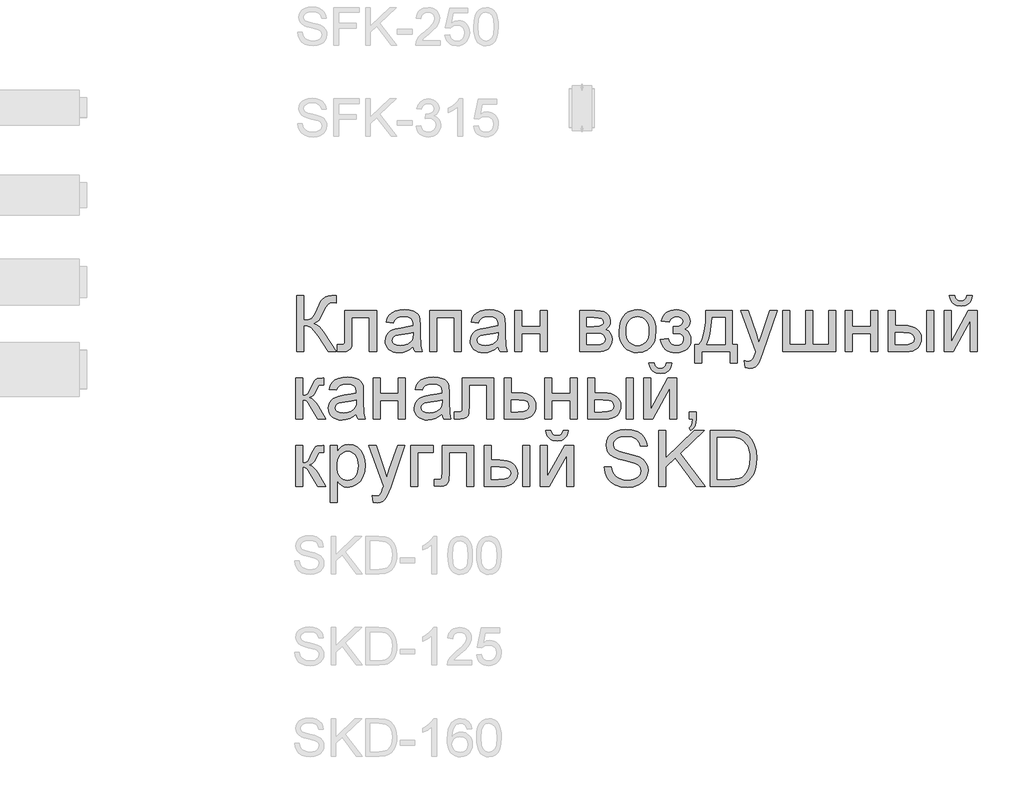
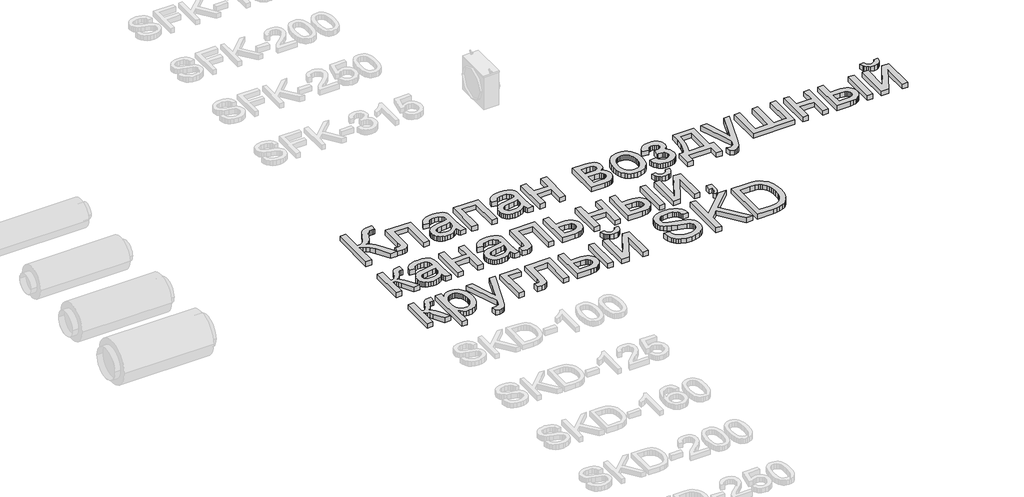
# One storey, part 12 of 31: 1 proxy.
"""IFC4 building model written with IfcOpenShell, lengths in millimetres."""

from ifc_helpers import new_model, si_unit, origin, origin_with_axes, place, context, project, spatial, polyline, outline, extrude, element, save

model = new_model("IFC4")

# Units and contexts
model_context = context("Model", 3, world=origin())
ifc_project = project(units=[si_unit("LENGTHUNIT", "METRE", prefix="MILLI")], contexts=[model_context])

# Site, building, storey
site = spatial("IfcSite", under=ifc_project)
building = spatial("IfcBuilding", under=site)
storey = spatial("IfcBuildingStorey", under=building, Name="Этаж 01", Elevation=0.0)

# Proxy
placement = place(None, origin())
element("IfcBuildingElementProxy", 1, Name="450 мм Arial", ObjectType="450 мм Arial", at=placement, inside=storey, context=model_context, shape_type="SweptSolid", body=[
    extrude(outline(polyline([(10419.0852891, -15002.9463555), (10475.292307, -15002.9463555), (10475.292307, -15199.6709179), (10513.3445678, -15195.9521431), (10538.1409744, -15184.7958185), (10558.1894249, -15158.5448358), (10581.9978174, -15109.5420866), (10613.0104787, -15046.6934192), (10627.9679126, -15029.6639003), (10648.1398648, -15015.5709786), (10672.0854815, -15006.1025112), (10698.3639091, -15002.9463555), (10735.2497645, -15003.6050315), (10735.2497645, -15059.8120493), (10722.8447001, -15059.4827113), (10710.4396356, -15059.1533733), (10684.6963823, -15062.5290878), (10666.5279029, -15072.6562311), (10650.8843481, -15093.9259766), (10633.154986, -15130.5099389), (10611.4049559, -15176.0683616), (10593.3599783, -15200.9882699), (10575.5620041, -15214.1069001), (10554.5529845, -15224.2614883), (10576.3235982, -15233.5241194), (10597.9432654, -15249.6754036), (10619.4119859, -15272.7153408), (10640.7297599, -15302.6439311), (10735.2497645, -15452.6024983), (10670.0408415, -15452.6024983), (10590.121488, -15325.9171494), (10559.2597733, -15285.2850743), (10533.8595805, -15259.7751021), (10507.8830461, -15246.3134115), (10475.292307, -15241.8261813), (10475.292307, -15452.6024983), (10419.0852891, -15452.6024983), (10419.0852891, -15002.9463555)])), origin_with_axes(), (0.0, 0.0, 1.0), 50.0),
    extrude(outline(polyline([(10805.5085369, -15122.3862684), (11058.4401172, -15122.3862684), (11058.4401172, -15452.2731603), (11002.2330993, -15452.2731603), (11002.2330993, -15178.5932862), (10861.7155547, -15178.5932862), (10861.7155547, -15336.1266273), (10857.9281678, -15408.8005449), (10850.8336785, -15425.2537223), (10837.1249844, -15439.4838681), (10816.321801, -15449.3228407), (10787.9438438, -15452.6024983), (10742.2756418, -15449.7482357), (10742.2756418, -15396.3954804), (10767.4151087, -15396.3954804), (10792.829024, -15392.9374315), (10799.1825029, -15388.4639237), (10802.9836122, -15381.9594983), (10805.5085369, -15332.9430267), (10805.5085369, -15122.3862684)])), origin_with_axes(), (0.0, 0.0, 1.0), 50.0),
    extrude(outline(polyline([(11353.5269609, -15410.4472349), (11326.6721919, -15433.4734497), (11299.0215227, -15448.540663), (11269.9437222, -15456.8564474), (11238.8075593, -15459.6283755), (11213.7813022, -15457.9611019), (11191.8357277, -15452.9592811), (11172.9708356, -15444.6229131), (11157.1866261, -15432.9519979), (11144.7232413, -15418.687546), (11135.8208237, -15402.5705678), (11130.4793731, -15384.6010635), (11128.6988895, -15364.7790329), (11131.3884831, -15341.4783697), (11139.457264, -15320.3184035), (11151.9034958, -15302.2048138), (11167.7254419, -15288.04328), (11186.3193163, -15277.3397952), (11207.0813324, -15269.6003523), (11255.7135763, -15261.1473437), (11313.1830565, -15252.2552178), (11353.1976229, -15241.8261813), (11353.5269609, -15229.3113375), (11349.6572395, -15204.2267602), (11338.0480751, -15187.8147501), (11312.0852632, -15175.6292443), (11275.9129734, -15171.567409), (11242.4302772, -15174.2707251), (11219.0472795, -15182.3806732), (11203.1018316, -15197.3792744), (11191.9317846, -15220.7485496), (11135.7247667, -15213.7226724), (11145.4814049, -15182.9844595), (11160.0408887, -15158.8330065), (11180.7617376, -15140.362634), (11209.0024707, -15126.6676623), (11243.5417929, -15118.187209), (11283.1584093, -15115.3603912), (11321.1557805, -15117.857871), (11351.2764846, -15125.3503104), (11373.9870839, -15136.6164143), (11389.7541404, -15150.4348877), (11400.2106217, -15167.5192962), (11406.9894955, -15188.5832054), (11409.7339788, -15237.7643461), (11409.7339788, -15307.6937804), (11412.5882414, -15405.342496), (11423.7857332, -15452.6024983), (11367.5787154, -15452.6024983), (11358.5768102, -15433.0617772), (11353.5269609, -15410.4472349)]), holes=[polyline([(11353.5269609, -15298.0331992), (11315.7628708, -15307.3918872), (11262.8492329, -15315.2685543), (11214.4914373, -15324.3802388), (11201.9079814, -15330.6102159), (11192.5904606, -15339.2004486), (11186.8270457, -15349.4922609), (11184.9059074, -15360.8269769), (11189.0912444, -15377.5408802), (11201.6472555, -15391.2358518), (11222.2994922, -15400.3749812), (11250.7735064, -15403.4213577), (11280.9628226, -15400.0593656), (11307.6392003, -15389.9733895), (11329.2657286, -15375.1120125), (11344.3054971, -15357.4238177), (11350.9745915, -15339.2004486), (11353.1976229, -15313.9512023), (11353.5269609, -15298.0331992)])]), origin_with_axes(), (0.0, 0.0, 1.0), 50.0),
    extrude(outline(polyline([(11487.0186283, -15122.3862684), (11739.9502087, -15122.3862684), (11739.9502087, -15452.6024983), (11683.7431908, -15452.6024983), (11683.7431908, -15178.5932862), (11543.2256462, -15178.5932862), (11543.2256462, -15452.6024983), (11487.0186283, -15452.6024983), (11487.0186283, -15122.3862684)])), origin_with_axes(), (0.0, 0.0, 1.0), 50.0),
    extrude(outline(polyline([(12035.0370524, -15410.4472349), (12008.1822834, -15433.4734497), (11980.5316142, -15448.540663), (11951.4538137, -15456.8564474), (11920.3176507, -15459.6283755), (11895.2913937, -15457.9611019), (11873.3458191, -15452.9592811), (11854.4809271, -15444.6229131), (11838.6967176, -15432.9519979), (11826.2333328, -15418.687546), (11817.3309151, -15402.5705678), (11811.9894645, -15384.6010635), (11810.208981, -15364.7790329), (11812.8985746, -15341.4783697), (11820.9673555, -15320.3184035), (11833.4135872, -15302.2048138), (11849.2355334, -15288.04328), (11867.8294077, -15277.3397952), (11888.5914238, -15269.6003523), (11937.2236678, -15261.1473437), (11994.693148, -15252.2552178), (12034.7077144, -15241.8261813), (12035.0370524, -15229.3113375), (12031.1673309, -15204.2267602), (12019.5581666, -15187.8147501), (11993.5953546, -15175.6292443), (11957.4230648, -15171.567409), (11923.9403687, -15174.2707251), (11900.557371, -15182.3806732), (11884.6119231, -15197.3792744), (11873.4418761, -15220.7485496), (11817.2348582, -15213.7226724), (11826.9914963, -15182.9844595), (11841.5509802, -15158.8330065), (11862.2718291, -15140.362634), (11890.5125621, -15126.6676623), (11925.0518844, -15118.187209), (11964.6685007, -15115.3603912), (12002.6658719, -15117.857871), (12032.7865761, -15125.3503104), (12055.4971753, -15136.6164143), (12071.2642319, -15150.4348877), (12081.7207132, -15167.5192962), (12088.4995869, -15188.5832054), (12091.2440702, -15237.7643461), (12091.2440702, -15307.6937804), (12094.0983329, -15405.342496), (12105.2958247, -15452.6024983), (12049.0888068, -15452.6024983), (12040.0869016, -15433.0617772), (12035.0370524, -15410.4472349)]), holes=[polyline([(12035.0370524, -15298.0331992), (11997.2729623, -15307.3918872), (11944.3593244, -15315.2685543), (11896.0015287, -15324.3802388), (11883.4180728, -15330.6102159), (11874.100552, -15339.2004486), (11868.3371371, -15349.4922609), (11866.4159988, -15360.8269769), (11870.6013358, -15377.5408802), (11883.1573469, -15391.2358518), (11903.8095837, -15400.3749812), (11932.2835979, -15403.4213577), (11962.4729141, -15400.0593656), (11989.1492917, -15389.9733895), (12010.7758201, -15375.1120125), (12025.8155885, -15357.4238177), (12032.4846829, -15339.2004486), (12034.7077144, -15313.9512023), (12035.0370524, -15298.0331992)])]), origin_with_axes(), (0.0, 0.0, 1.0), 50.0),
    extrude(outline(polyline([(12168.5287198, -15122.3862684), (12224.7357376, -15122.3862684), (12224.7357376, -15248.8520586), (12372.2791595, -15248.8520586), (12372.2791595, -15122.3862684), (12428.4861773, -15122.3862684), (12428.4861773, -15452.6024983), (12372.2791595, -15452.6024983), (12372.2791595, -15305.0590764), (12224.7357376, -15305.0590764), (12224.7357376, -15452.6024983), (12168.5287198, -15452.6024983), (12168.5287198, -15122.3862684)])), origin_with_axes(), (0.0, 0.0, 1.0), 50.0),
    extrude(outline(polyline([(12688.4436349, -15122.3862684), (12812.2747211, -15122.3862684), (12852.0834513, -15124.2662395), (12880.1732378, -15129.9061526), (12900.839197, -15140.5547478), (12918.3764452, -15157.4607649), (12930.3561148, -15179.4852433), (12934.349338, -15205.4892225), (12931.9341927, -15226.4433525), (12924.6887568, -15244.515775), (12912.5855855, -15259.7888245), (12895.5972339, -15272.3448356), (12916.4004173, -15284.022612), (12933.361324, -15302.8086001), (12944.6411504, -15327.220779), (12948.4010925, -15355.7771277), (12945.2792427, -15378.7827589), (12938.8777354, -15398.6185119), (12929.1965706, -15415.2843867), (12916.2357483, -15428.7803833), (12899.9746848, -15439.2025586), (12880.3927965, -15446.6469695), (12857.4900834, -15451.1136161), (12831.2665455, -15452.6024983), (12688.4436349, -15452.6024983), (12688.4436349, -15122.3862684)]), holes=[polyline([(12744.6506528, -15248.8520586), (12800.1989946, -15248.8520586), (12846.0318656, -15245.9977959), (12868.31707, -15234.5807454), (12875.6860076, -15225.1397229), (12878.1423202, -15213.9422311), (12873.8334814, -15197.1734381), (12860.9069651, -15186.3876188), (12837.5514123, -15180.5418694), (12801.9554639, -15178.5932862), (12744.6506528, -15178.5932862), (12744.6506528, -15248.8520586)]), polyline([(12744.6506528, -15396.3954804), (12813.5920731, -15396.3954804), (12851.1640494, -15393.8568334), (12874.7391609, -15386.2408922), (12887.3912289, -15372.394974), (12892.1940746, -15351.1663957), (12889.7926517, -15337.1009189), (12882.5883831, -15324.1057905), (12871.5281154, -15313.9374799), (12857.5586955, -15308.3524564), (12808.1031065, -15305.0590764), (12744.6506528, -15305.0590764), (12744.6506528, -15396.3954804)])]), origin_with_axes(), (0.0, 0.0, 1.0), 50.0),
    extrude(outline(polyline([(13004.6081103, -15287.4943833), (13007.6476256, -15244.7284724), (13016.7661713, -15207.876923), (13031.9637476, -15176.9397351), (13053.2403543, -15151.9169086), (13074.6610464, -15135.9234322), (13098.30477, -15124.4995205), (13124.171525, -15117.6451735), (13152.2613115, -15115.3603912), (13183.2705421, -15118.1426111), (13211.3088696, -15126.4892709), (13236.3762939, -15140.4003706), (13258.472815, -15159.8759102), (13276.5075008, -15184.2572136), (13289.3894193, -15212.885605), (13297.1185704, -15245.7610843), (13299.6949541, -15282.8836514), (13295.1391118, -15339.6670107), (13289.444309, -15362.9745351), (13281.471585, -15382.8926226), (13259.0903237, -15415.2638031), (13228.3932781, -15439.4838681), (13191.9328175, -15454.5922487), (13152.2613115, -15459.6283755), (13120.7992412, -15456.8564474), (13092.5001878, -15448.540663), (13067.3641514, -15434.6810224), (13045.3911321, -15415.2775255), (13027.5485601, -15390.6595103), (13014.8038658, -15361.1563149), (13007.1570492, -15326.7679393), (13004.6081103, -15287.4943833)]), holes=[polyline([(13060.8151282, -15287.384604), (13062.4412345, -15314.6476149), (13067.3195536, -15338.2536019), (13075.4500853, -15358.2025648), (13086.8328298, -15374.4945037), (13100.678748, -15387.1500023), (13116.198801, -15396.1896442), (13133.3929889, -15401.6134293), (13152.2613115, -15403.4213577), (13171.0335773, -15401.6031375), (13188.159153, -15396.1484769), (13203.6380388, -15387.057376), (13217.4702346, -15374.3298347), (13228.852979, -15357.8766574), (13236.9835108, -15337.6086483), (13241.8618299, -15313.5258074), (13243.4879362, -15285.6281347), (13241.851538, -15259.229636), (13236.9423435, -15236.2411578), (13228.7603527, -15216.6627001), (13217.3055656, -15200.4942629), (13203.4219107, -15187.8387643), (13187.9533168, -15178.7991225), (13170.8997837, -15173.3753374), (13152.2613115, -15171.567409), (13133.3929889, -15173.3684762), (13116.198801, -15178.7716777), (13100.678748, -15187.7770135), (13086.8328298, -15200.3844836), (13075.4500853, -15216.6283941), (13067.3195536, -15236.543051), (13062.4412345, -15260.1284543), (13060.8151282, -15287.384604)])]), origin_with_axes(), (0.0, 0.0, 1.0), 50.0),
    extrude(outline(polyline([(13440.2124987, -15305.0590764), (13440.2124987, -15248.8520586), (13484.5633487, -15246.6564719), (13496.0901785, -15242.7455832), (13506.9583324, -15234.9649731), (13514.8624443, -15224.0007623), (13517.4971482, -15210.5390718), (13513.9704872, -15194.5524566), (13503.3905041, -15182.1611145), (13487.2392199, -15174.2158354), (13466.9986556, -15171.567409), (13446.5385327, -15174.202113), (13429.3992345, -15182.1062249), (13415.5807611, -15195.2797447), (13405.0831125, -15213.7226724), (13341.8502174, -15206.6967952), (13358.6190104, -15166.7371184), (13370.2762032, -15151.038674), (13384.1152602, -15138.1944922), (13400.1361814, -15128.204573), (13418.3389668, -15121.0689164), (13461.2901304, -15115.3603912), (13486.2100387, -15117.0997075), (13508.2756844, -15122.3176563), (13527.4870674, -15131.0142378), (13543.8441878, -15143.1894518), (13556.9079283, -15157.7798111), (13566.2391715, -15173.7218284), (13571.8379174, -15191.0155038), (13573.7041661, -15209.6608371), (13571.0488785, -15228.1037649), (13563.0830157, -15244.5706646), (13549.8065778, -15259.0615364), (13531.2195647, -15271.5763802), (13552.9147051, -15287.1924902), (13568.3798685, -15306.5959871), (13577.6424996, -15329.8417606), (13580.7300433, -15356.9847003), (13578.7711684, -15378.7450222), (13572.8945435, -15398.357786), (13563.1001688, -15415.8229915), (13549.3880441, -15431.1406389), (13532.1561196, -15443.6040237), (13511.8023454, -15452.5064414), (13488.3267214, -15457.847892), (13461.7292477, -15459.6283755), (13435.8041724, -15457.9816855), (13412.7539433, -15453.0416156), (13392.5785605, -15444.8081657), (13375.278024, -15433.2813359), (13360.8523336, -15418.4611261), (13349.3014896, -15400.3475364), (13340.6254918, -15378.9405667), (13334.8243402, -15354.240217), (13398.0572353, -15347.2143398), (13407.5257027, -15370.9815651), (13423.4162609, -15388.7109272), (13443.8901063, -15399.74375), (13467.108435, -15403.4213577), (13489.7229773, -15399.8946966), (13508.165905, -15389.3147135), (13520.4337454, -15373.2457638), (13524.5230255, -15353.2522031), (13521.9843784, -15337.4165344), (13514.3684373, -15323.7215628), (13503.8845111, -15313.4571953), (13492.7419089, -15307.913339), (13451.1904319, -15304.7297384), (13440.2124987, -15305.0590764)])), origin_with_axes(), (0.0, 0.0, 1.0), 50.0),
    extrude(outline(polyline([(13700.1699563, -15122.3862684), (13910.9462732, -15122.3862684), (13910.9462732, -15396.3954804), (13953.1015366, -15396.3954804), (13953.1015366, -15543.9389023), (13896.8945187, -15543.9389023), (13896.8945187, -15452.6024983), (13665.0405701, -15452.6024983), (13665.0405701, -15543.9389023), (13608.8335522, -15543.9389023), (13608.8335522, -15396.3954804), (13643.9629384, -15396.3954804), (13657.6887855, -15375.1840552), (13669.5003554, -15350.2469938), (13687.3806641, -15289.195963), (13697.6038644, -15213.2423878), (13700.1699563, -15122.3862684)]), holes=[polyline([(13749.3510969, -15178.5932862), (13744.7403649, -15247.4112048), (13736.1775771, -15306.6508767), (13723.6627332, -15356.3123019), (13707.1958335, -15396.3954804), (13854.7392553, -15396.3954804), (13854.7392553, -15178.5932862), (13749.3510969, -15178.5932862)])]), origin_with_axes(), (0.0, 0.0, 1.0), 50.0),
    extrude(outline(polyline([(14016.3344317, -15579.0682884), (14009.3085544, -15524.9470779), (14037.8511807, -15529.8871478), (14052.8635043, -15528.3365148), (14064.5275583, -15523.6846156), (14080.8846787, -15506.3943708), (14096.2537852, -15465.0075628), (14100.6449584, -15451.3949256), (13981.2050455, -15122.3862684), (14040.4858847, -15122.3862684), (14103.8285591, -15305.7177524), (14125.8942047, -15379.050346), (14147.9598504, -15314.2805403), (14213.0589942, -15122.3862684), (14271.900716, -15122.3862684), (14156.9617556, -15460.5066102), (14127.1017774, -15533.8392038), (14111.8150055, -15557.2496463), (14094.4973159, -15573.4695425), (14074.3802533, -15582.9380099), (14050.6953625, -15586.0941657), (14016.3344317, -15579.0682884)])), origin_with_axes(), (0.0, 0.0, 1.0), 50.0),
    extrude(outline(polyline([(14318.4471526, -15122.3862684), (14374.6541705, -15122.3862684), (14374.6541705, -15396.3954804), (14501.1199606, -15396.3954804), (14501.1199606, -15122.3862684), (14557.3269785, -15122.3862684), (14557.3269785, -15396.3954804), (14683.7927687, -15396.3954804), (14683.7927687, -15122.3862684), (14739.9997865, -15122.3862684), (14739.9997865, -15452.6024983), (14318.4471526, -15452.6024983), (14318.4471526, -15122.3862684)])), origin_with_axes(), (0.0, 0.0, 1.0), 50.0),
    extrude(outline(polyline([(14817.2844361, -15122.3862684), (14873.4914539, -15122.3862684), (14873.4914539, -15248.8520586), (15021.0348758, -15248.8520586), (15021.0348758, -15122.3862684), (15077.2418936, -15122.3862684), (15077.2418936, -15452.6024983), (15021.0348758, -15452.6024983), (15021.0348758, -15305.0590764), (14873.4914539, -15305.0590764), (14873.4914539, -15452.6024983), (14817.2844361, -15452.6024983), (14817.2844361, -15122.3862684)])), origin_with_axes(), (0.0, 0.0, 1.0), 50.0),
    extrude(outline(polyline([(15470.6910186, -15122.3862684), (15526.8980364, -15122.3862684), (15526.8980364, -15452.6024983), (15470.6910186, -15452.6024983), (15470.6910186, -15122.3862684)])), origin_with_axes(), (0.0, 0.0, 1.0), 50.0),
    extrude(outline(polyline([(15161.5524204, -15122.3862684), (15217.7594383, -15122.3862684), (15217.7594383, -15241.8261813), (15287.2497553, -15241.8261813), (15319.2264162, -15243.5860812), (15347.3127721, -15248.865781), (15371.508823, -15257.6652805), (15391.8145687, -15269.9845799), (15407.8800878, -15285.3982842), (15419.3554586, -15303.4809985), (15426.2406811, -15324.2327228), (15428.5357552, -15347.6534571), (15426.6111863, -15368.5492668), (15420.8374796, -15387.8738598), (15411.214635, -15405.6272361), (15397.7426527, -15421.8093957), (15380.044166, -15435.2813781), (15357.7418086, -15444.9042226), (15330.8355806, -15450.6779294), (15299.3254817, -15452.6024983), (15161.5524204, -15452.6024983), (15161.5524204, -15122.3862684)]), holes=[polyline([(15217.7594383, -15396.3954804), (15275.5033668, -15396.3954804), (15320.2658893, -15393.4451609), (15350.043533, -15384.5942023), (15366.7574363, -15369.4858217), (15372.3287374, -15347.7632365), (15368.19829, -15329.4026432), (15355.8069479, -15313.182747), (15345.052004, -15306.5548198), (15329.3089617, -15301.8205861), (15282.858582, -15298.0331992), (15217.7594383, -15298.0331992), (15217.7594383, -15396.3954804)])]), origin_with_axes(), (0.0, 0.0, 1.0), 50.0),
    extrude(outline(polyline([(15793.8813712, -15002.9463555), (15836.0366346, -15002.9463555), (15826.9661173, -15038.9402539), (15819.0036852, -15053.3865278), (15808.7564707, -15065.4656849), (15796.4303101, -15074.9993337), (15782.2310397, -15081.8090829), (15748.2131692, -15087.2568822), (15711.2998689, -15081.8502502), (15695.9513461, -15075.09196), (15682.6749082, -15065.6303539), (15671.662669, -15053.6026559), (15663.1067423, -15039.1460901), (15653.3638266, -15002.9463555), (15695.51909, -15002.9463555), (15701.4471739, -15021.4578953), (15711.3273138, -15034.6176927), (15725.2143992, -15042.4806373), (15743.16332, -15045.1016189), (15763.4176067, -15042.5629718), (15778.0731475, -15034.9470307), (15787.9532873, -15021.8695678), (15793.8813712, -15002.9463555)])), origin_with_axes(), (0.0, 0.0, 1.0), 50.0),
    extrude(outline(polyline([(15611.2085632, -15122.3862684), (15667.4155811, -15122.3862684), (15667.4155811, -15374.2200554), (15805.5179804, -15122.3862684), (15878.191898, -15122.3862684), (15878.191898, -15452.6024983), (15821.9848802, -15452.6024983), (15821.9848802, -15202.3056219), (15684.7607155, -15452.6024983), (15611.2085632, -15452.6024983), (15611.2085632, -15122.3862684)])), origin_with_axes(), (0.0, 0.0, 1.0), 50.0),
    extrude(outline(polyline([(10412.0594119, -15662.8183516), (10468.2664298, -15662.8183516), (10468.2664298, -15803.3358962), (10491.1279756, -15800.8109716), (10505.9207405, -15793.2361977), (10519.0119258, -15773.475918), (10536.7687328, -15734.3944759), (10551.0812131, -15702.4349679), (10562.4022067, -15683.6215349), (10572.9684674, -15673.3708898), (10585.0167491, -15667.0997455), (10626.1291088, -15662.8183516), (10636.8874833, -15662.8183516), (10636.8874833, -15719.3547074), (10621.7379355, -15719.0253694), (10604.1732424, -15720.5073904), (10594.2931026, -15724.9534533), (10574.9719402, -15761.9490881), (10563.10205, -15786.6082705), (10552.3025082, -15801.9636546), (10539.2250453, -15812.2142997), (10520.5213917, -15821.5592653), (10538.3330882, -15829.4702384), (10555.9801158, -15843.4327971), (10573.4624744, -15863.4469415), (10590.780164, -15889.5126716), (10650.9392378, -15993.0345815), (10587.0476667, -15993.0345815), (10528.0961656, -15891.7082583), (10512.1781624, -15864.7437099), (10498.455746, -15848.8394292), (10484.5961053, -15841.0588191), (10468.2664298, -15838.4652824), (10468.2664298, -15993.0345815), (10412.0594119, -15993.0345815), (10412.0594119, -15662.8183516)])), origin_with_axes(), (0.0, 0.0, 1.0), 50.0),
    extrude(outline(polyline([(10896.8449409, -15950.8793181), (10869.9901718, -15973.9055329), (10842.3395027, -15988.9727462), (10813.2617022, -15997.2885306), (10782.1255392, -16000.0604587), (10757.0992822, -15998.3931851), (10735.1537076, -15993.3913643), (10716.2888156, -15985.0549963), (10700.5046061, -15973.3840811), (10688.0412213, -15959.1196292), (10679.1388036, -15943.002651), (10673.797353, -15925.0331467), (10672.0168695, -15905.2111161), (10674.7064631, -15881.9104529), (10682.775244, -15860.7504867), (10695.2214757, -15842.636897), (10711.0434219, -15828.4753632), (10729.6372962, -15817.7718783), (10750.3993123, -15810.0324354), (10799.0315563, -15801.5794269), (10856.5010365, -15792.687301), (10896.5156029, -15782.2582645), (10896.8449409, -15769.7434207), (10892.9752194, -15744.6588434), (10881.3660551, -15728.2468333), (10855.4032431, -15716.0613275), (10819.2309533, -15711.9994922), (10785.7482572, -15714.7028082), (10762.3652595, -15722.8127564), (10746.4198116, -15737.8113576), (10735.2497645, -15761.1806328), (10679.0427467, -15754.1547556), (10688.7993848, -15723.4165427), (10703.3588687, -15699.2650897), (10724.0797175, -15680.7947171), (10752.3204506, -15667.0997455), (10786.8597729, -15658.6192921), (10826.4763892, -15655.7924743), (10864.4737604, -15658.2899541), (10894.5944646, -15665.7823935), (10917.3050638, -15677.0484975), (10933.0721203, -15690.8669708), (10943.5286017, -15707.9513793), (10950.3074754, -15729.0152886), (10953.0519587, -15778.1964292), (10953.0519587, -15848.1258636), (10955.9062214, -15945.7745791), (10967.1037132, -15993.0345815), (10910.8966953, -15993.0345815), (10901.8947901, -15973.4938604), (10896.8449409, -15950.8793181)]), holes=[polyline([(10896.8449409, -15838.4652824), (10859.0808508, -15847.8239704), (10806.1672129, -15855.7006374), (10757.8094172, -15864.812322), (10745.2259613, -15871.0422991), (10735.9084405, -15879.6325318), (10730.1450256, -15889.9243441), (10728.2238873, -15901.2590601), (10732.4092243, -15917.9729634), (10744.9652354, -15931.667935), (10765.6174722, -15940.8070644), (10794.0914864, -15943.8534408), (10824.2808026, -15940.4914488), (10850.9571802, -15930.4054727), (10872.5837086, -15915.5440957), (10887.623477, -15897.8559008), (10894.2925714, -15879.6325318), (10896.5156029, -15854.3832855), (10896.8449409, -15838.4652824)])]), origin_with_axes(), (0.0, 0.0, 1.0), 50.0),
    extrude(outline(polyline([(11030.3366083, -15662.8183516), (11086.5436261, -15662.8183516), (11086.5436261, -15789.2841417), (11234.087048, -15789.2841417), (11234.087048, -15662.8183516), (11290.2940658, -15662.8183516), (11290.2940658, -15993.0345815), (11234.087048, -15993.0345815), (11234.087048, -15845.4911596), (11086.5436261, -15845.4911596), (11086.5436261, -15993.0345815), (11030.3366083, -15993.0345815), (11030.3366083, -15662.8183516)])), origin_with_axes(), (0.0, 0.0, 1.0), 50.0),
    extrude(outline(polyline([(11585.3809096, -15950.8793181), (11558.5261405, -15973.9055329), (11530.8754714, -15988.9727462), (11501.7976709, -15997.2885306), (11470.6615079, -16000.0604587), (11445.6352509, -15998.3931851), (11423.6896763, -15993.3913643), (11404.8247843, -15985.0549963), (11389.0405747, -15973.3840811), (11376.57719, -15959.1196292), (11367.6747723, -15943.002651), (11362.3333217, -15925.0331467), (11360.5528382, -15905.2111161), (11363.2424318, -15881.9104529), (11371.3112127, -15860.7504867), (11383.7574444, -15842.636897), (11399.5793906, -15828.4753632), (11418.1732649, -15817.7718783), (11438.935281, -15810.0324354), (11487.567525, -15801.5794269), (11545.0370051, -15792.687301), (11585.0515716, -15782.2582645), (11585.3809096, -15769.7434207), (11581.5111881, -15744.6588434), (11569.9020238, -15728.2468333), (11543.9392118, -15716.0613275), (11507.766922, -15711.9994922), (11474.2842258, -15714.7028082), (11450.9012282, -15722.8127564), (11434.9557802, -15737.8113576), (11423.7857332, -15761.1806328), (11367.5787154, -15754.1547556), (11377.3353535, -15723.4165427), (11391.8948374, -15699.2650897), (11412.6156862, -15680.7947171), (11440.8564193, -15667.0997455), (11475.3957416, -15658.6192921), (11515.0123579, -15655.7924743), (11553.0097291, -15658.2899541), (11583.1304333, -15665.7823935), (11605.8410325, -15677.0484975), (11621.608089, -15690.8669708), (11632.0645704, -15707.9513793), (11638.8434441, -15729.0152886), (11641.5879274, -15778.1964292), (11641.5879274, -15848.1258636), (11644.44219, -15945.7745791), (11655.6396819, -15993.0345815), (11599.432664, -15993.0345815), (11590.4307588, -15973.4938604), (11585.3809096, -15950.8793181)]), holes=[polyline([(11585.3809096, -15838.4652824), (11547.6168194, -15847.8239704), (11494.7031815, -15855.7006374), (11446.3453859, -15864.812322), (11433.76193, -15871.0422991), (11424.4444092, -15879.6325318), (11418.6809943, -15889.9243441), (11416.759856, -15901.2590601), (11420.945193, -15917.9729634), (11433.5012041, -15931.667935), (11454.1534409, -15940.8070644), (11482.6274551, -15943.8534408), (11512.8167713, -15940.4914488), (11539.4931489, -15930.4054727), (11561.1196772, -15915.5440957), (11576.1594457, -15897.8559008), (11582.8285401, -15879.6325318), (11585.0515716, -15854.3832855), (11585.3809096, -15838.4652824)])]), origin_with_axes(), (0.0, 0.0, 1.0), 50.0),
    extrude(outline(polyline([(11746.9760859, -15662.8183516), (11999.9076662, -15662.8183516), (11999.9076662, -15992.7052435), (11943.7006484, -15992.7052435), (11943.7006484, -15719.0253694), (11803.1831037, -15719.0253694), (11803.1831037, -15876.5587105), (11799.3957168, -15949.2326281), (11792.3012275, -15965.6858054), (11778.5925334, -15979.9159513), (11757.7893501, -15989.7549239), (11729.4113928, -15993.0345815), (11683.7431908, -15990.1803188), (11683.7431908, -15936.8275636), (11708.8826578, -15936.8275636), (11734.2965731, -15933.3695147), (11740.6500519, -15928.8960069), (11744.4511613, -15922.3915815), (11746.9760859, -15873.3751099), (11746.9760859, -15662.8183516)])), origin_with_axes(), (0.0, 0.0, 1.0), 50.0),
    extrude(outline(polyline([(12084.218193, -15662.8183516), (12140.4252109, -15662.8183516), (12140.4252109, -15782.2582645), (12205.1950166, -15782.2582645), (12235.0961621, -15784.0181644), (12261.3471448, -15789.2978642), (12283.9479647, -15798.0973637), (12302.8986218, -15810.4166631), (12317.8835006, -15825.8303674), (12328.5869855, -15843.9130817), (12335.0090764, -15864.664806), (12337.1497733, -15888.0855403), (12335.3281225, -15908.98135), (12329.8631702, -15928.305943), (12320.7549163, -15946.0593193), (12308.0033608, -15962.2414789), (12291.2448596, -15975.7134613), (12270.1157689, -15985.3363058), (12244.6160885, -15991.1100125), (12214.7458184, -15993.0345815), (12084.218193, -15993.0345815), (12084.218193, -15662.8183516)]), holes=[polyline([(12140.4252109, -15936.8275636), (12192.8997314, -15936.8275636), (12233.6141411, -15933.8772441), (12260.6884688, -15925.0262854), (12275.8791838, -15909.9179049), (12280.9427555, -15888.1953196), (12277.1965358, -15869.8347264), (12265.9578767, -15853.6148301), (12256.1909468, -15846.986903), (12241.8750358, -15842.2526693), (12199.5962707, -15838.4652824), (12140.4252109, -15838.4652824), (12140.4252109, -15936.8275636)])]), origin_with_axes(), (0.0, 0.0, 1.0), 50.0),
    extrude(outline(polyline([(12407.4085457, -15662.8183516), (12463.6155635, -15662.8183516), (12463.6155635, -15789.2841417), (12611.1589854, -15789.2841417), (12611.1589854, -15662.8183516), (12667.3660032, -15662.8183516), (12667.3660032, -15993.0345815), (12611.1589854, -15993.0345815), (12611.1589854, -15845.4911596), (12463.6155635, -15845.4911596), (12463.6155635, -15993.0345815), (12407.4085457, -15993.0345815), (12407.4085457, -15662.8183516)])), origin_with_axes(), (0.0, 0.0, 1.0), 50.0),
    extrude(outline(polyline([(13060.8151282, -15662.8183516), (13117.022146, -15662.8183516), (13117.022146, -15993.0345815), (13060.8151282, -15993.0345815), (13060.8151282, -15662.8183516)])), origin_with_axes(), (0.0, 0.0, 1.0), 50.0),
    extrude(outline(polyline([(12751.67653, -15662.8183516), (12807.8835478, -15662.8183516), (12807.8835478, -15782.2582645), (12877.3738648, -15782.2582645), (12909.3505258, -15784.0181644), (12937.4368817, -15789.2978642), (12961.6329326, -15798.0973637), (12981.9386783, -15810.4166631), (12998.0041974, -15825.8303674), (13009.4795682, -15843.9130817), (13016.3647906, -15864.664806), (13018.6598648, -15888.0855403), (13016.7352959, -15908.98135), (13010.9615892, -15928.305943), (13001.3387446, -15946.0593193), (12987.8667622, -15962.2414789), (12970.1682756, -15975.7134613), (12947.8659182, -15985.3363058), (12920.9596901, -15991.1100125), (12889.4495913, -15993.0345815), (12751.67653, -15993.0345815), (12751.67653, -15662.8183516)]), holes=[polyline([(12807.8835478, -15936.8275636), (12865.6274763, -15936.8275636), (12910.3899989, -15933.8772441), (12940.1676426, -15925.0262854), (12956.8815459, -15909.9179049), (12962.4528469, -15888.1953196), (12958.3223996, -15869.8347264), (12945.9310575, -15853.6148301), (12935.1761136, -15846.986903), (12919.4330713, -15842.2526693), (12872.9826916, -15838.4652824), (12807.8835478, -15838.4652824), (12807.8835478, -15936.8275636)])]), origin_with_axes(), (0.0, 0.0, 1.0), 50.0),
    extrude(outline(polyline([(13201.3326728, -15662.8183516), (13257.5396907, -15662.8183516), (13257.5396907, -15914.6521386), (13395.64209, -15662.8183516), (13468.3160076, -15662.8183516), (13468.3160076, -15993.0345815), (13412.1089898, -15993.0345815), (13412.1089898, -15742.7377051), (13274.8848251, -15993.0345815), (13201.3326728, -15993.0345815), (13201.3326728, -15662.8183516)])), origin_with_axes(), (0.0, 0.0, 1.0), 50.0),
    extrude(outline(polyline([(13384.0054808, -15543.3784386), (13426.1607442, -15543.3784386), (13417.0902269, -15579.372337), (13409.1277948, -15593.818611), (13398.8805803, -15605.8977681), (13386.5544197, -15615.4314169), (13372.3551493, -15622.2411661), (13338.3372788, -15627.6889654), (13301.4239785, -15622.2823333), (13286.0754557, -15615.5240432), (13272.7990178, -15606.0624371), (13261.7867786, -15594.034739), (13253.2308519, -15579.5781733), (13243.4879362, -15543.3784386), (13285.6431996, -15543.3784386), (13291.5712835, -15561.8899785), (13301.4514234, -15575.0497758), (13315.3385088, -15582.9127205), (13333.2874296, -15585.533702), (13353.5417163, -15582.995055), (13368.1972571, -15575.3791138), (13378.0773969, -15562.3016509), (13384.0054808, -15543.3784386)])), origin_with_axes(), (0.0, 0.0, 1.0), 50.0),
    extrude(outline(polyline([(13566.6782889, -15993.0345815), (13566.6782889, -15936.8275636), (13622.8853067, -15936.8275636), (13622.8853067, -15993.0345815), (13620.3603821, -16025.1862032), (13612.7856082, -16050.5040616), (13599.7218677, -16069.9212809), (13580.7300433, -16084.3709855), (13566.6782889, -16063.2933538), (13578.8637947, -16053.1113208), (13587.3168032, -16039.0321215), (13592.448987, -16019.5188452), (13594.6720184, -15993.0345815), (13566.6782889, -15993.0345815)])), origin_with_axes(), (0.0, 0.0, 1.0), 50.0),
    extrude(outline(polyline([(10412.0594119, -16203.2504348), (10468.2664298, -16203.2504348), (10468.2664298, -16343.7679794), (10491.1279756, -16341.2430548), (10505.9207405, -16333.6682809), (10519.0119258, -16313.9080011), (10536.7687328, -16274.826559), (10551.0812131, -16242.8670511), (10562.4022067, -16224.0536181), (10572.9684674, -16213.802973), (10585.0167491, -16207.5318287), (10626.1291088, -16203.2504348), (10636.8874833, -16203.2504348), (10636.8874833, -16259.7867906), (10621.7379355, -16259.4574526), (10604.1732424, -16260.9394736), (10594.2931026, -16265.3855365), (10574.9719402, -16302.3811713), (10563.10205, -16327.0403537), (10552.3025082, -16342.3957377), (10539.2250453, -16352.6463828), (10520.5213917, -16361.9913485), (10538.3330882, -16369.9023215), (10555.9801158, -16383.8648803), (10573.4624744, -16403.8790247), (10590.780164, -16429.9447548), (10650.9392378, -16533.4666646), (10587.0476667, -16533.4666646), (10528.0961656, -16432.1403414), (10512.1781624, -16405.1757931), (10498.455746, -16389.2715124), (10484.5961053, -16381.4909023), (10468.2664298, -16378.8973655), (10468.2664298, -16533.4666646), (10412.0594119, -16533.4666646), (10412.0594119, -16203.2504348)])), origin_with_axes(), (0.0, 0.0, 1.0), 50.0),
    extrude(outline(polyline([(10686.0686239, -16659.9324548), (10686.0686239, -16203.2504348), (10742.2756418, -16203.2504348), (10742.2756418, -16258.3596593), (10760.6087902, -16231.1755523), (10781.1375252, -16211.758333), (10805.0694195, -16200.1080014), (10833.6120458, -16196.2245575), (10871.6231394, -16201.6586344), (10904.8588321, -16217.9608652), (10931.9194374, -16244.1432358), (10951.4052687, -16279.2177323), (10963.1791021, -16320.6319852), (10967.1037132, -16365.8336251), (10962.6713727, -16413.90325), (10949.3743511, -16456.8955807), (10927.6380434, -16492.6287532), (10897.8878445, -16518.9209032), (10863.2387429, -16535.0996322), (10826.8057272, -16540.4925419), (10800.966417, -16536.8835463), (10777.8990349, -16526.0565597), (10758.1524776, -16509.7131617), (10742.2756418, -16489.5549319), (10742.2756418, -16659.9324548), (10686.0686239, -16659.9324548)]), holes=[polyline([(10742.2756418, -16370.9932537), (10743.7953994, -16398.0813038), (10748.3546723, -16421.3819669), (10755.9534604, -16440.8952431), (10766.5917638, -16456.6211324), (10779.3982089, -16468.7243037), (10793.5014225, -16477.3694261), (10808.9014043, -16482.5564995), (10825.5981546, -16484.285524), (10842.5350471, -16482.4947487), (10858.2163385, -16477.1224226), (10872.6420288, -16468.1685459), (10885.812118, -16455.6331184), (10896.7866206, -16439.3377489), (10904.625551, -16419.1040458), (10909.3289093, -16394.9320092), (10910.8966953, -16366.821639), (10909.3666459, -16339.96687), (10904.7764976, -16316.7073741), (10897.1262504, -16297.0431513), (10886.4159044, -16280.9742016), (10873.5785838, -16268.4868026), (10859.5474129, -16259.5672319), (10844.3223918, -16254.2154895), (10827.9035205, -16252.4315754), (10811.5361083, -16254.3286995), (10796.1361264, -16260.0200717), (10781.7035749, -16269.5056921), (10768.2384537, -16282.7855606), (10756.8797235, -16299.6812859), (10748.7663448, -16320.0144765), (10743.8983175, -16343.7851324), (10742.2756418, -16370.9932537)])]), origin_with_axes(), (0.0, 0.0, 1.0), 50.0),
    extrude(outline(polyline([(11030.3366083, -16659.9324548), (11023.310731, -16605.8112443), (11051.8533573, -16610.7513142), (11066.8656809, -16609.2006811), (11078.5297349, -16604.5487819), (11094.8868553, -16587.2585372), (11110.2559618, -16545.8717291), (11114.6471351, -16532.259092), (10995.2072221, -16203.2504348), (11054.4880613, -16203.2504348), (11117.8307357, -16386.5819188), (11139.8963814, -16459.9145124), (11161.962027, -16395.1447066), (11227.0611708, -16203.2504348), (11285.9028926, -16203.2504348), (11170.9639322, -16541.3707765), (11141.103954, -16614.7033701), (11125.8171821, -16638.1138126), (11108.4994925, -16654.3337089), (11088.3824299, -16663.8021762), (11064.6975391, -16666.958332), (11030.3366083, -16659.9324548)])), origin_with_axes(), (0.0, 0.0, 1.0), 50.0),
    extrude(outline(polyline([(11332.4493292, -16203.2504348), (11515.1221372, -16203.2504348), (11515.1221372, -16259.4574526), (11388.6563471, -16259.4574526), (11388.6563471, -16533.4666646), (11332.4493292, -16533.4666646), (11332.4493292, -16203.2504348)])), origin_with_axes(), (0.0, 0.0, 1.0), 50.0),
    extrude(outline(polyline([(11585.3809096, -16203.2504348), (11838.3124899, -16203.2504348), (11838.3124899, -16533.1373266), (11782.105472, -16533.1373266), (11782.105472, -16259.4574526), (11641.5879274, -16259.4574526), (11641.5879274, -16416.9907937), (11637.8005405, -16489.6647113), (11630.7060512, -16506.1178886), (11616.9973571, -16520.3480345), (11596.1941737, -16530.1870071), (11567.8162165, -16533.4666646), (11522.1480145, -16530.612402), (11522.1480145, -16477.2596468), (11547.2874814, -16477.2596468), (11572.7013967, -16473.8015978), (11579.0548756, -16469.3280901), (11582.8559849, -16462.8236647), (11585.3809096, -16413.807193), (11585.3809096, -16203.2504348)])), origin_with_axes(), (0.0, 0.0, 1.0), 50.0),
    extrude(outline(polyline([(12231.7616149, -16203.2504348), (12287.9686327, -16203.2504348), (12287.9686327, -16533.4666646), (12231.7616149, -16533.4666646), (12231.7616149, -16203.2504348)])), origin_with_axes(), (0.0, 0.0, 1.0), 50.0),
    extrude(outline(polyline([(11922.6230167, -16203.2504348), (11978.8300345, -16203.2504348), (11978.8300345, -16322.6903477), (12048.3203515, -16322.6903477), (12080.2970125, -16324.4502476), (12108.3833684, -16329.7299473), (12132.5794192, -16338.5294469), (12152.885165, -16350.8487463), (12168.9506841, -16366.2624506), (12180.4260549, -16384.3451649), (12187.3112773, -16405.0968892), (12189.6063515, -16428.5176235), (12187.6817826, -16449.4134332), (12181.9080758, -16468.7380262), (12172.2852313, -16486.4914025), (12158.8132489, -16502.6735621), (12141.1147623, -16516.1455444), (12118.8124049, -16525.768389), (12091.9061768, -16531.5420957), (12060.396078, -16533.4666646), (11922.6230167, -16533.4666646), (11922.6230167, -16203.2504348)]), holes=[polyline([(11978.8300345, -16477.2596468), (12036.573963, -16477.2596468), (12081.3364855, -16474.3093272), (12111.1141293, -16465.4583686), (12127.8280325, -16450.3499881), (12133.3993336, -16428.6274028), (12129.2688863, -16410.2668096), (12116.8775442, -16394.0469133), (12106.1226003, -16387.4189862), (12090.379558, -16382.6847525), (12043.9291783, -16378.8973655), (11978.8300345, -16378.8973655), (11978.8300345, -16477.2596468)])]), origin_with_axes(), (0.0, 0.0, 1.0), 50.0),
    extrude(outline(polyline([(12372.2791595, -16203.2504348), (12428.4861773, -16203.2504348), (12428.4861773, -16455.0842218), (12566.5885767, -16203.2504348), (12639.2624943, -16203.2504348), (12639.2624943, -16533.4666646), (12583.0554764, -16533.4666646), (12583.0554764, -16283.1697883), (12445.8313118, -16533.4666646), (12372.2791595, -16533.4666646), (12372.2791595, -16203.2504348)])), origin_with_axes(), (0.0, 0.0, 1.0), 50.0),
    extrude(outline(polyline([(12554.9519675, -16083.8105218), (12597.1072309, -16083.8105218), (12588.0367136, -16119.8044202), (12580.0742815, -16134.2506941), (12569.827067, -16146.3298512), (12557.5009064, -16155.8635001), (12543.3016359, -16162.6732493), (12509.2837655, -16168.1210486), (12472.3704652, -16162.7144165), (12457.0219424, -16155.9561264), (12443.7455045, -16146.4945202), (12432.7332652, -16134.4668222), (12424.1773386, -16120.0102565), (12414.4344229, -16083.8105218), (12456.5896863, -16083.8105218), (12462.5177702, -16102.3220616), (12472.39791, -16115.481859), (12486.2849955, -16123.3448037), (12504.2339162, -16125.9657852), (12524.488203, -16123.4271382), (12539.1437437, -16115.811197), (12549.0238836, -16102.7337341), (12554.9519675, -16083.8105218)])), origin_with_axes(), (0.0, 0.0, 1.0), 50.0),
    extrude(outline(polyline([(12885.1681974, -16378.8973655), (12941.3752152, -16378.8973655), (12947.824751, -16410.0884182), (12959.488805, -16435.1592731), (12977.6847292, -16455.0567769), (13003.7298757, -16470.7277765), (13035.5658819, -16480.8960871), (13071.1343854, -16484.285524), (13102.4489397, -16481.7194321), (13129.8663278, -16474.0211565), (13152.0829201, -16461.8356507), (13167.795087, -16445.8078682), (13177.1400526, -16427.4061078), (13180.2550411, -16408.0986678), (13177.9222303, -16389.2852348), (13170.9237979, -16373.0241713), (13156.7073745, -16359.1508082), (13132.7205905, -16347.5004767), (13050.8800987, -16326.0386173), (12997.1568382, -16311.8359163), (12962.7821849, -16298.319336), (12934.8021778, -16279.4098461), (12914.973286, -16256.4934106), (12903.1582854, -16230.0640365), (12899.2199519, -16200.6157308), (12904.0914097, -16167.6956537), (12918.7057832, -16136.998608), (12942.6788448, -16110.9809064), (12975.6263668, -16092.0988614), (13015.174371, -16080.6131988), (13058.9488795, -16076.7846446), (13106.3735509, -16080.7915902), (13147.8701383, -16092.812427), (13181.9566208, -16112.6001516), (13207.1509774, -16139.9077603), (13223.0964253, -16173.0336737), (13229.4361817, -16210.276312), (13173.2291639, -16210.276312), (13169.4692218, -16192.3411137), (13162.9099067, -16176.7387261), (13153.5512187, -16163.4691494), (13141.3931577, -16152.5323835), (13126.2093039, -16143.983318), (13107.7732373, -16137.8768427), (13061.1444662, -16132.9916624), (13013.4179017, -16137.821953), (12995.173949, -16143.8598163), (12980.676216, -16152.3128248), (12961.7392813, -16173.63746), (12957.0050476, -16185.8023822), (12955.4269697, -16198.9690408), (12959.9004775, -16220.5681243), (12973.3210008, -16237.9407036), (13005.0472277, -16253.474479), (13065.0965221, -16269.3375925), (13127.0669549, -16284.4048057), (13164.5565967, -16297.5508807), (13196.5984391, -16317.9423916), (13218.9522556, -16343.1093034), (13232.0846081, -16372.7771678), (13236.462059, -16406.6715365), (13231.4259321, -16441.3206381), (13216.3175516, -16473.9113772), (13191.7544261, -16501.9599964), (13158.3540644, -16522.9827385), (13118.1885514, -16536.115091), (13073.329972, -16540.4925419), (13018.2619147, -16535.7720306), (12972.9367731, -16521.6104968), (12953.7974328, -16510.975624), (12936.8330954, -16497.9530508), (12922.043761, -16482.5427771), (12909.4294297, -16464.744803), (12891.8372918, -16424.2911192), (12885.1681974, -16378.8973655)])), origin_with_axes(), (0.0, 0.0, 1.0), 50.0),
    extrude(outline(polyline([(13320.7725857, -16533.4666646), (13320.7725857, -16083.8105218), (13376.9796036, -16083.8105218), (13376.9796036, -16303.918082), (13607.5162003, -16083.8105218), (13686.1182018, -16083.8105218), (13492.5772399, -16268.6789165), (13693.144079, -16533.4666646), (13624.4222173, -16533.4666646), (13452.7273425, -16306.6625653), (13376.9796036, -16378.8973655), (13376.9796036, -16533.4666646), (13320.7725857, -16533.4666646)])), origin_with_axes(), (0.0, 0.0, 1.0), 50.0),
    extrude(outline(polyline([(13735.2993424, -16533.4666646), (13735.2993424, -16083.8105218), (13890.4175382, -16083.8105218), (13936.771861, -16085.429767), (13970.6662297, -16090.2875024), (14006.5091815, -16102.7749014), (14036.7533874, -16122.4528466), (14067.8483831, -16156.7039981), (14089.9963633, -16199.2983788), (14103.2522176, -16249.4126438), (14107.6708357, -16306.2234479), (14104.6793489, -16354.4851866), (14095.7048885, -16396.9560656), (14082.0373617, -16433.114633), (14064.9666756, -16462.439437), (14045.3161752, -16485.5891536), (14023.9092056, -16503.2224587), (13999.3323577, -16516.2999216), (13970.1722227, -16525.7821114), (13936.3739109, -16531.5455263), (13897.8825327, -16533.4666646), (13735.2993424, -16533.4666646)]), holes=[polyline([(13791.5063603, -16477.2596468), (13890.9664348, -16477.2596468), (13932.1062394, -16475.2287291), (13963.3110144, -16469.1359762), (13986.8586811, -16459.3381709), (14005.0271605, -16446.1920959), (14024.5541591, -16421.8622515), (14039.2234223, -16390.3693057), (14048.403719, -16351.5760344), (14051.4638178, -16305.3452133), (14049.9646438, -16272.7133069), (14045.4671218, -16244.0883462), (14037.9712518, -16219.470331), (14027.4770338, -16198.8592615), (14000.8967131, -16167.7917106), (13985.6614003, -16156.8686671), (13969.129319, -16149.0194449), (13936.7993058, -16142.268016), (13889.4295242, -16140.0175397), (13791.5063603, -16140.0175397), (13791.5063603, -16477.2596468)])]), origin_with_axes(), (0.0, 0.0, 1.0), 50.0),
])

save(model, "model.ifc")
